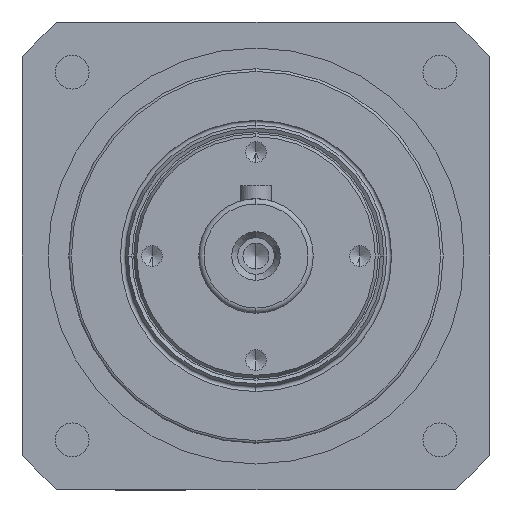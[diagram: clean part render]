
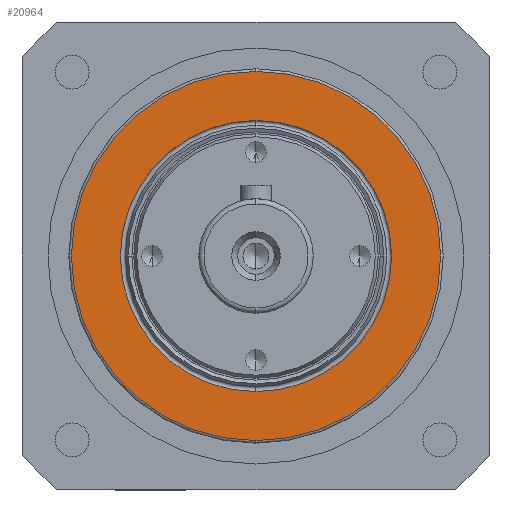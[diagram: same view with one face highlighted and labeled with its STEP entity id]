
A CAD part, left-side view. The second image highlights one B-rep face of the part: STEP entity #20964.
In plain terms, the highlighted planar face has unit normal (-1, 0, 0) as drawn and (0, -1, 0) by its records, which use the part's own axes.
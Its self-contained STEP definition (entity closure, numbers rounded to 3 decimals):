
#745 = AXIS2_PLACEMENT_3D ( 'NONE', #14356, #14278, #14270 ) ;
#754 = FACE_OUTER_BOUND ( 'NONE', #12868, .T. ) ;
#2260 = AXIS2_PLACEMENT_3D ( 'NONE', #33318, #32893, #33013 ) ;
#2933 = EDGE_CURVE ( 'NONE', #25686, #23519, #5350, .T. ) ;
#2948 = AXIS2_PLACEMENT_3D ( 'NONE', #12500, #12459, #12416 ) ;
#5350 = CIRCLE ( 'NONE', #11823, 26.073 ) ;
#5534 = EDGE_CURVE ( 'NONE', #12483, #15550, #6031, .T. ) ;
#6031 = CIRCLE ( 'NONE', #2260, 35.5 ) ;
#10931 = CARTESIAN_POINT ( 'NONE',  ( 0., 0., 26.073 ) ) ;
#11577 = EDGE_LOOP ( 'NONE', ( #20799, #22297 ) ) ;
#11633 = CARTESIAN_POINT ( 'NONE',  ( 0., 0., -35.5 ) ) ;
#11823 = AXIS2_PLACEMENT_3D ( 'NONE', #31444, #31399, #31317 ) ;
#12416 = DIRECTION ( 'NONE',  ( 0., 0., 1. ) ) ;
#12459 = DIRECTION ( 'NONE',  ( 0., 1., 0. ) ) ;
#12483 = VERTEX_POINT ( 'NONE', #11633 ) ;
#12500 = CARTESIAN_POINT ( 'NONE',  ( 0., 0., 0. ) ) ;
#12868 = EDGE_LOOP ( 'NONE', ( #24038, #25413 ) ) ;
#13791 = EDGE_CURVE ( 'NONE', #15550, #12483, #33103, .T. ) ;
#14270 = DIRECTION ( 'NONE',  ( 0., 0., 1. ) ) ;
#14278 = DIRECTION ( 'NONE',  ( 0., -1., 0. ) ) ;
#14356 = CARTESIAN_POINT ( 'NONE',  ( 0., 0., 0. ) ) ;
#15550 = VERTEX_POINT ( 'NONE', #18351 ) ;
#15758 = EDGE_CURVE ( 'NONE', #23519, #25686, #20207, .T. ) ;
#16087 = FACE_BOUND ( 'NONE', #11577, .T. ) ;
#18351 = CARTESIAN_POINT ( 'NONE',  ( 0., 0., 35.5 ) ) ;
#20207 = CIRCLE ( 'NONE', #2948, 26.073 ) ;
#20799 = ORIENTED_EDGE ( 'NONE', *, *, #15758, .T. ) ;
#20964 = ADVANCED_FACE ( 'NONE', ( #16087, #754 ), #31351, .T. ) ;
#22297 = ORIENTED_EDGE ( 'NONE', *, *, #2933, .T. ) ;
#23519 = VERTEX_POINT ( 'NONE', #10931 ) ;
#24038 = ORIENTED_EDGE ( 'NONE', *, *, #13791, .T. ) ;
#24268 = AXIS2_PLACEMENT_3D ( 'NONE', #28431, #29274, #29041 ) ;
#25413 = ORIENTED_EDGE ( 'NONE', *, *, #5534, .T. ) ;
#25686 = VERTEX_POINT ( 'NONE', #33150 ) ;
#28431 = CARTESIAN_POINT ( 'NONE',  ( 0., 0., 35.5 ) ) ;
#29041 = DIRECTION ( 'NONE',  ( 0., 0., -1. ) ) ;
#29274 = DIRECTION ( 'NONE',  ( 0., -1., 0. ) ) ;
#31317 = DIRECTION ( 'NONE',  ( 0., 0., 1. ) ) ;
#31351 = PLANE ( 'NONE',  #24268 ) ;
#31399 = DIRECTION ( 'NONE',  ( 0., 1., 0. ) ) ;
#31444 = CARTESIAN_POINT ( 'NONE',  ( 0., 0., 0. ) ) ;
#32893 = DIRECTION ( 'NONE',  ( 0., -1., 0. ) ) ;
#33013 = DIRECTION ( 'NONE',  ( 0., 0., 1. ) ) ;
#33103 = CIRCLE ( 'NONE', #745, 35.5 ) ;
#33150 = CARTESIAN_POINT ( 'NONE',  ( 0., 0., -26.073 ) ) ;
#33318 = CARTESIAN_POINT ( 'NONE',  ( 0., 0., 0. ) ) ;
